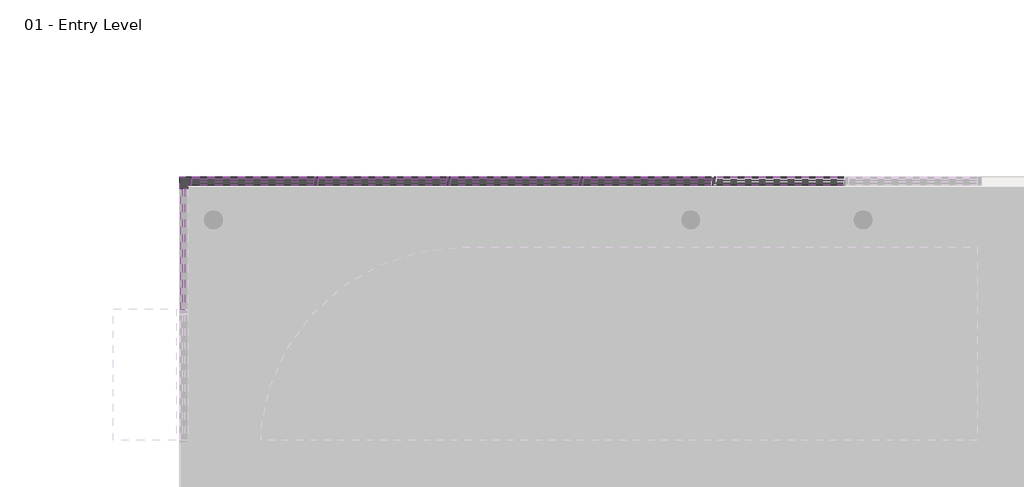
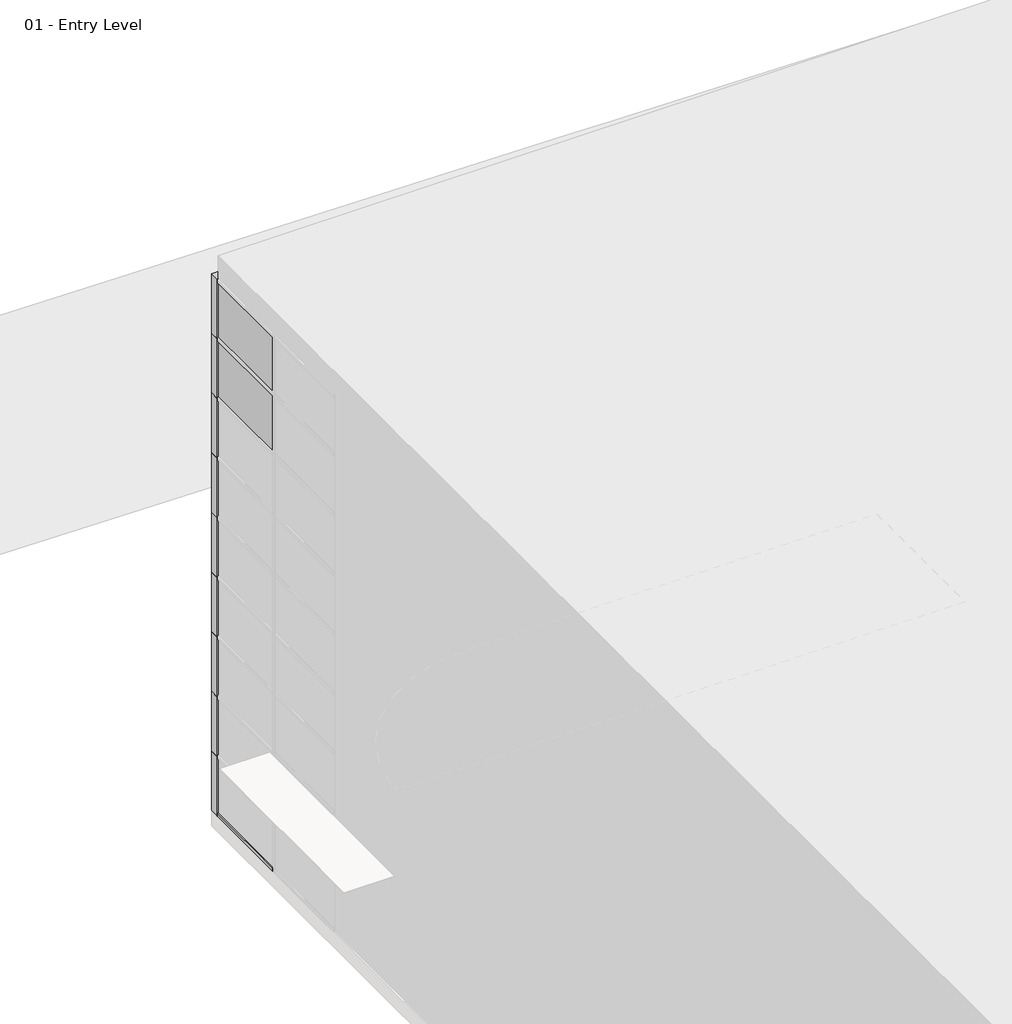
# One storey, part 28 of 34: 90 members, 38 plates.
"""IFC4 building model written with IfcOpenShell, lengths in millimetres."""

from ifc_helpers import new_model, si_unit, origin, place, context, project, spatial, transform, mapped, element, save
from components import member_6230916f, member_2b49869a, member_391b434c, member_9e90ae50, member_9822c4e5, member_b50b2218, member_bdc0ab2a, system_panel_glazed_1b9d6098, system_panel_glazed_70da479d, system_panel_glazed_01db37db, system_panel_glazed_0a464ab8, system_panel_glazed_acb8865d, system_panel_solid_b376696c, system_panel_solid_77e8b053, system_panel_solid_9da24cec, system_panel_solid_7d77b356, system_panel_solid_9c486990

model = new_model("IFC4")

# Units and contexts
model_context = context("Model", 3, world=origin())
ifc_project = project(units=[si_unit("LENGTHUNIT", "METRE", prefix="MILLI")], contexts=[model_context])

# Site, building, storey
site = spatial("IfcSite", under=ifc_project)
building = spatial("IfcBuilding", under=site)
storey = spatial("IfcBuildingStorey", under=building, Name="01 - Entry Level", Elevation=0.0)

# Members
placement = place(None, origin())
member_shape = member_6230916f(model_context)
element("IfcMember", 1, ObjectType="L Corner Mullion : 5\" x 5\" Corner", at=placement, inside=storey, context=model_context, shape_type="MappedRepresentation", body=[
    mapped(member_shape, transform((178.7207476, 53825.7, 10972.8), x_axis=(0.0, 1.0, 0.0), y_axis=(-1.0, 0.0, 0.0), z_axis=(0.0, 0.0, 1.0))),
])
element("IfcMember", 2, ObjectType="L Corner Mullion : 5\" x 5\" Corner", at=placement, inside=storey, context=model_context, shape_type="MappedRepresentation", body=[
    mapped(member_shape, transform((178.7207476, 53825.7, 1219.2), x_axis=(0.0, 1.0, 0.0), y_axis=(-1.0, 0.0, 0.0), z_axis=(0.0, 0.0, 1.0))),
])
element("IfcMember", 3, ObjectType="L Corner Mullion : 5\" x 5\" Corner", at=placement, inside=storey, context=model_context, shape_type="MappedRepresentation", body=[
    mapped(member_shape, transform((178.7207476, 53825.7, 8534.4), x_axis=(0.0, 1.0, 0.0), y_axis=(-1.0, 0.0, 0.0), z_axis=(0.0, 0.0, 1.0))),
])
element("IfcMember", 4, ObjectType="L Corner Mullion : 5\" x 5\" Corner", at=placement, inside=storey, context=model_context, shape_type="MappedRepresentation", body=[
    mapped(member_shape, transform((178.7207476, 53825.7, 7315.2), x_axis=(0.0, 1.0, 0.0), y_axis=(-1.0, 0.0, 0.0), z_axis=(0.0, 0.0, 1.0))),
])
element("IfcMember", 5, ObjectType="L Corner Mullion : 5\" x 5\" Corner", at=placement, inside=storey, context=model_context, shape_type="MappedRepresentation", body=[
    mapped(member_shape, transform((178.7207476, 53825.7, 9753.6), x_axis=(0.0, 1.0, 0.0), y_axis=(-1.0, 0.0, 0.0), z_axis=(0.0, 0.0, 1.0))),
])
element("IfcMember", 6, ObjectType="L Corner Mullion : 5\" x 5\" Corner", at=placement, inside=storey, context=model_context, shape_type="MappedRepresentation", body=[
    mapped(member_shape, transform((178.7207476, 53825.7, 6096.0), x_axis=(0.0, 1.0, 0.0), y_axis=(-1.0, 0.0, 0.0), z_axis=(0.0, 0.0, 1.0))),
])
element("IfcMember", 7, ObjectType="L Corner Mullion : 5\" x 5\" Corner", at=placement, inside=storey, context=model_context, shape_type="MappedRepresentation", body=[
    mapped(member_shape, transform((178.7207476, 53825.7, 2438.4), x_axis=(0.0, 1.0, 0.0), y_axis=(-1.0, 0.0, 0.0), z_axis=(0.0, 0.0, 1.0))),
])
element("IfcMember", 8, ObjectType="L Corner Mullion : 5\" x 5\" Corner", at=placement, inside=storey, context=model_context, shape_type="MappedRepresentation", body=[
    mapped(member_shape, transform((178.7207476, 53825.7, 3657.6), x_axis=(0.0, 1.0, 0.0), y_axis=(-1.0, 0.0, 0.0), z_axis=(0.0, 0.0, 1.0))),
])
element("IfcMember", 9, ObjectType="L Corner Mullion : 5\" x 5\" Corner", at=placement, inside=storey, context=model_context, shape_type="MappedRepresentation", body=[
    mapped(member_shape, transform((178.7207476, 53825.7, 4876.8), x_axis=(0.0, 1.0, 0.0), y_axis=(-1.0, 0.0, 0.0), z_axis=(0.0, 0.0, 1.0))),
])
member_2_shape = member_2b49869a(model_context)
element("IfcMember", 10, ObjectType="Rectangular Mullion : 2.5\" x 5\" rectangular", at=placement, inside=storey, context=model_context, shape_type="MappedRepresentation", body=[
    mapped(member_2_shape, transform((6274.7207476, 53825.7, 9753.6), x_axis=(-1.0, 0.0, 0.0), y_axis=(0.0, 1.0, 0.0), z_axis=(0.0, 0.0, -1.0))),
])
element("IfcMember", 11, ObjectType="Rectangular Mullion : 2.5\" x 5\" rectangular", at=placement, inside=storey, context=model_context, shape_type="MappedRepresentation", body=[
    mapped(member_2_shape, transform((4242.7207476, 53825.7, 9753.6), x_axis=(-1.0, 0.0, 0.0), y_axis=(0.0, 1.0, 0.0), z_axis=(0.0, 0.0, -1.0))),
])
element("IfcMember", 12, ObjectType="Rectangular Mullion : 2.5\" x 5\" rectangular", at=placement, inside=storey, context=model_context, shape_type="MappedRepresentation", body=[
    mapped(member_2_shape, transform((2210.7207476, 53825.7, 9753.6), x_axis=(-1.0, 0.0, 0.0), y_axis=(0.0, 1.0, 0.0), z_axis=(0.0, 0.0, -1.0))),
])
member_3_shape = member_391b434c(model_context)
element("IfcMember", 13, ObjectType="Rectangular Mullion : 2.5\" x 5\" rectangular", at=placement, inside=storey, context=model_context, shape_type="MappedRepresentation", body=[
    mapped(member_3_shape, transform((8338.4707476, 53825.7, 10972.8), x_axis=(0.0, 0.0, 1.0), y_axis=(0.0, 1.0, 0.0), z_axis=(-1.0, 0.0, 0.0))),
])
element("IfcMember", 14, ObjectType="Rectangular Mullion : 2.5\" x 5\" rectangular", at=placement, inside=storey, context=model_context, shape_type="MappedRepresentation", body=[
    mapped(member_3_shape, transform((6306.4707476, 53825.7, 10972.8), x_axis=(0.0, 0.0, 1.0), y_axis=(0.0, 1.0, 0.0), z_axis=(-1.0, 0.0, 0.0))),
])
element("IfcMember", 15, ObjectType="Rectangular Mullion : 2.5\" x 5\" rectangular", at=placement, inside=storey, context=model_context, shape_type="MappedRepresentation", body=[
    mapped(member_3_shape, transform((4274.4707476, 53825.7, 10972.8), x_axis=(0.0, 0.0, 1.0), y_axis=(0.0, 1.0, 0.0), z_axis=(-1.0, 0.0, 0.0))),
])
element("IfcMember", 16, ObjectType="Rectangular Mullion : 2.5\" x 5\" rectangular", at=placement, inside=storey, context=model_context, shape_type="MappedRepresentation", body=[
    mapped(member_3_shape, transform((2242.4707476, 53825.7, 10972.8), x_axis=(0.0, 0.0, 1.0), y_axis=(0.0, 1.0, 0.0), z_axis=(-1.0, 0.0, 0.0))),
])
element("IfcMember", 17, ObjectType="Rectangular Mullion : 2.5\" x 5\" rectangular", at=placement, inside=storey, context=model_context, shape_type="MappedRepresentation", body=[
    mapped(member_3_shape, transform((8274.9707476, 53825.7, 0.0), x_axis=(0.0, 0.0, -1.0), y_axis=(0.0, 1.0, 0.0), z_axis=(1.0, 0.0, 0.0))),
])
element("IfcMember", 18, ObjectType="Rectangular Mullion : 2.5\" x 5\" rectangular", at=placement, inside=storey, context=model_context, shape_type="MappedRepresentation", body=[
    mapped(member_3_shape, transform((6242.9707476, 53825.7, 0.0), x_axis=(0.0, 0.0, -1.0), y_axis=(0.0, 1.0, 0.0), z_axis=(1.0, 0.0, 0.0))),
])
element("IfcMember", 19, ObjectType="Rectangular Mullion : 2.5\" x 5\" rectangular", at=placement, inside=storey, context=model_context, shape_type="MappedRepresentation", body=[
    mapped(member_3_shape, transform((4210.9707476, 53825.7, 0.0), x_axis=(0.0, 0.0, -1.0), y_axis=(0.0, 1.0, 0.0), z_axis=(1.0, 0.0, 0.0))),
])
member_4_shape = member_9e90ae50(model_context)
element("IfcMember", 20, ObjectType="Rectangular Mullion : 2.5\" x 5\" rectangular", at=placement, inside=storey, context=model_context, shape_type="MappedRepresentation", body=[
    mapped(member_4_shape, transform((8338.4707476, 53825.7, 1219.2), x_axis=(0.0, 0.0, 1.0), y_axis=(0.0, 1.0, 0.0), z_axis=(-1.0, 0.0, 0.0))),
])
element("IfcMember", 21, ObjectType="Rectangular Mullion : 2.5\" x 5\" rectangular", at=placement, inside=storey, context=model_context, shape_type="MappedRepresentation", body=[
    mapped(member_4_shape, transform((6306.4707476, 53825.7, 1219.2), x_axis=(0.0, 0.0, 1.0), y_axis=(0.0, 1.0, 0.0), z_axis=(-1.0, 0.0, 0.0))),
])
element("IfcMember", 22, ObjectType="Rectangular Mullion : 2.5\" x 5\" rectangular", at=placement, inside=storey, context=model_context, shape_type="MappedRepresentation", body=[
    mapped(member_4_shape, transform((4274.4707476, 53825.7, 1219.2), x_axis=(0.0, 0.0, 1.0), y_axis=(0.0, 1.0, 0.0), z_axis=(-1.0, 0.0, 0.0))),
])
element("IfcMember", 23, ObjectType="Rectangular Mullion : 2.5\" x 5\" rectangular", at=placement, inside=storey, context=model_context, shape_type="MappedRepresentation", body=[
    mapped(member_4_shape, transform((2242.4707476, 53825.7, 1219.2), x_axis=(0.0, 0.0, 1.0), y_axis=(0.0, 1.0, 0.0), z_axis=(-1.0, 0.0, 0.0))),
])
element("IfcMember", 24, ObjectType="Rectangular Mullion : 2.5\" x 5\" rectangular", at=placement, inside=storey, context=model_context, shape_type="MappedRepresentation", body=[
    mapped(member_4_shape, transform((8338.4707476, 53825.7, 2438.4), x_axis=(0.0, 0.0, 1.0), y_axis=(0.0, 1.0, 0.0), z_axis=(-1.0, 0.0, 0.0))),
])
element("IfcMember", 25, ObjectType="Rectangular Mullion : 2.5\" x 5\" rectangular", at=placement, inside=storey, context=model_context, shape_type="MappedRepresentation", body=[
    mapped(member_4_shape, transform((6306.4707476, 53825.7, 2438.4), x_axis=(0.0, 0.0, 1.0), y_axis=(0.0, 1.0, 0.0), z_axis=(-1.0, 0.0, 0.0))),
])
element("IfcMember", 26, ObjectType="Rectangular Mullion : 2.5\" x 5\" rectangular", at=placement, inside=storey, context=model_context, shape_type="MappedRepresentation", body=[
    mapped(member_4_shape, transform((4274.4707476, 53825.7, 2438.4), x_axis=(0.0, 0.0, 1.0), y_axis=(0.0, 1.0, 0.0), z_axis=(-1.0, 0.0, 0.0))),
])
element("IfcMember", 27, ObjectType="Rectangular Mullion : 2.5\" x 5\" rectangular", at=placement, inside=storey, context=model_context, shape_type="MappedRepresentation", body=[
    mapped(member_4_shape, transform((2242.4707476, 53825.7, 2438.4), x_axis=(0.0, 0.0, 1.0), y_axis=(0.0, 1.0, 0.0), z_axis=(-1.0, 0.0, 0.0))),
])
element("IfcMember", 28, ObjectType="Rectangular Mullion : 2.5\" x 5\" rectangular", at=placement, inside=storey, context=model_context, shape_type="MappedRepresentation", body=[
    mapped(member_4_shape, transform((8338.4707476, 53825.7, 3657.6), x_axis=(0.0, 0.0, 1.0), y_axis=(0.0, 1.0, 0.0), z_axis=(-1.0, 0.0, 0.0))),
])
element("IfcMember", 29, ObjectType="Rectangular Mullion : 2.5\" x 5\" rectangular", at=placement, inside=storey, context=model_context, shape_type="MappedRepresentation", body=[
    mapped(member_4_shape, transform((6306.4707476, 53825.7, 3657.6), x_axis=(0.0, 0.0, 1.0), y_axis=(0.0, 1.0, 0.0), z_axis=(-1.0, 0.0, 0.0))),
])
element("IfcMember", 30, ObjectType="Rectangular Mullion : 2.5\" x 5\" rectangular", at=placement, inside=storey, context=model_context, shape_type="MappedRepresentation", body=[
    mapped(member_4_shape, transform((4274.4707476, 53825.7, 3657.6), x_axis=(0.0, 0.0, 1.0), y_axis=(0.0, 1.0, 0.0), z_axis=(-1.0, 0.0, 0.0))),
])
element("IfcMember", 31, ObjectType="Rectangular Mullion : 2.5\" x 5\" rectangular", at=placement, inside=storey, context=model_context, shape_type="MappedRepresentation", body=[
    mapped(member_4_shape, transform((2242.4707476, 53825.7, 3657.6), x_axis=(0.0, 0.0, 1.0), y_axis=(0.0, 1.0, 0.0), z_axis=(-1.0, 0.0, 0.0))),
])
element("IfcMember", 32, ObjectType="Rectangular Mullion : 2.5\" x 5\" rectangular", at=placement, inside=storey, context=model_context, shape_type="MappedRepresentation", body=[
    mapped(member_4_shape, transform((8338.4707476, 53825.7, 4876.8), x_axis=(0.0, 0.0, 1.0), y_axis=(0.0, 1.0, 0.0), z_axis=(-1.0, 0.0, 0.0))),
])
element("IfcMember", 33, ObjectType="Rectangular Mullion : 2.5\" x 5\" rectangular", at=placement, inside=storey, context=model_context, shape_type="MappedRepresentation", body=[
    mapped(member_4_shape, transform((6306.4707476, 53825.7, 4876.8), x_axis=(0.0, 0.0, 1.0), y_axis=(0.0, 1.0, 0.0), z_axis=(-1.0, 0.0, 0.0))),
])
element("IfcMember", 34, ObjectType="Rectangular Mullion : 2.5\" x 5\" rectangular", at=placement, inside=storey, context=model_context, shape_type="MappedRepresentation", body=[
    mapped(member_4_shape, transform((4274.4707476, 53825.7, 4876.8), x_axis=(0.0, 0.0, 1.0), y_axis=(0.0, 1.0, 0.0), z_axis=(-1.0, 0.0, 0.0))),
])
element("IfcMember", 35, ObjectType="Rectangular Mullion : 2.5\" x 5\" rectangular", at=placement, inside=storey, context=model_context, shape_type="MappedRepresentation", body=[
    mapped(member_4_shape, transform((2242.4707476, 53825.7, 4876.8), x_axis=(0.0, 0.0, 1.0), y_axis=(0.0, 1.0, 0.0), z_axis=(-1.0, 0.0, 0.0))),
])
element("IfcMember", 36, ObjectType="Rectangular Mullion : 2.5\" x 5\" rectangular", at=placement, inside=storey, context=model_context, shape_type="MappedRepresentation", body=[
    mapped(member_4_shape, transform((8338.4707476, 53825.7, 6096.0), x_axis=(0.0, 0.0, 1.0), y_axis=(0.0, 1.0, 0.0), z_axis=(-1.0, 0.0, 0.0))),
])
element("IfcMember", 37, ObjectType="Rectangular Mullion : 2.5\" x 5\" rectangular", at=placement, inside=storey, context=model_context, shape_type="MappedRepresentation", body=[
    mapped(member_4_shape, transform((6306.4707476, 53825.7, 6096.0), x_axis=(0.0, 0.0, 1.0), y_axis=(0.0, 1.0, 0.0), z_axis=(-1.0, 0.0, 0.0))),
])
element("IfcMember", 38, ObjectType="Rectangular Mullion : 2.5\" x 5\" rectangular", at=placement, inside=storey, context=model_context, shape_type="MappedRepresentation", body=[
    mapped(member_4_shape, transform((4274.4707476, 53825.7, 6096.0), x_axis=(0.0, 0.0, 1.0), y_axis=(0.0, 1.0, 0.0), z_axis=(-1.0, 0.0, 0.0))),
])
element("IfcMember", 39, ObjectType="Rectangular Mullion : 2.5\" x 5\" rectangular", at=placement, inside=storey, context=model_context, shape_type="MappedRepresentation", body=[
    mapped(member_4_shape, transform((2242.4707476, 53825.7, 6096.0), x_axis=(0.0, 0.0, 1.0), y_axis=(0.0, 1.0, 0.0), z_axis=(-1.0, 0.0, 0.0))),
])
element("IfcMember", 40, ObjectType="Rectangular Mullion : 2.5\" x 5\" rectangular", at=placement, inside=storey, context=model_context, shape_type="MappedRepresentation", body=[
    mapped(member_4_shape, transform((8338.4707476, 53825.7, 7315.2), x_axis=(0.0, 0.0, 1.0), y_axis=(0.0, 1.0, 0.0), z_axis=(-1.0, 0.0, 0.0))),
])
element("IfcMember", 41, ObjectType="Rectangular Mullion : 2.5\" x 5\" rectangular", at=placement, inside=storey, context=model_context, shape_type="MappedRepresentation", body=[
    mapped(member_4_shape, transform((6306.4707476, 53825.7, 7315.2), x_axis=(0.0, 0.0, 1.0), y_axis=(0.0, 1.0, 0.0), z_axis=(-1.0, 0.0, 0.0))),
])
element("IfcMember", 42, ObjectType="Rectangular Mullion : 2.5\" x 5\" rectangular", at=placement, inside=storey, context=model_context, shape_type="MappedRepresentation", body=[
    mapped(member_4_shape, transform((4274.4707476, 53825.7, 7315.2), x_axis=(0.0, 0.0, 1.0), y_axis=(0.0, 1.0, 0.0), z_axis=(-1.0, 0.0, 0.0))),
])
element("IfcMember", 43, ObjectType="Rectangular Mullion : 2.5\" x 5\" rectangular", at=placement, inside=storey, context=model_context, shape_type="MappedRepresentation", body=[
    mapped(member_4_shape, transform((2242.4707476, 53825.7, 7315.2), x_axis=(0.0, 0.0, 1.0), y_axis=(0.0, 1.0, 0.0), z_axis=(-1.0, 0.0, 0.0))),
])
element("IfcMember", 44, ObjectType="Rectangular Mullion : 2.5\" x 5\" rectangular", at=placement, inside=storey, context=model_context, shape_type="MappedRepresentation", body=[
    mapped(member_4_shape, transform((8338.4707476, 53825.7, 8534.4), x_axis=(0.0, 0.0, 1.0), y_axis=(0.0, 1.0, 0.0), z_axis=(-1.0, 0.0, 0.0))),
])
element("IfcMember", 45, ObjectType="Rectangular Mullion : 2.5\" x 5\" rectangular", at=placement, inside=storey, context=model_context, shape_type="MappedRepresentation", body=[
    mapped(member_4_shape, transform((6306.4707476, 53825.7, 8534.4), x_axis=(0.0, 0.0, 1.0), y_axis=(0.0, 1.0, 0.0), z_axis=(-1.0, 0.0, 0.0))),
])
element("IfcMember", 46, ObjectType="Rectangular Mullion : 2.5\" x 5\" rectangular", at=placement, inside=storey, context=model_context, shape_type="MappedRepresentation", body=[
    mapped(member_4_shape, transform((4274.4707476, 53825.7, 8534.4), x_axis=(0.0, 0.0, 1.0), y_axis=(0.0, 1.0, 0.0), z_axis=(-1.0, 0.0, 0.0))),
])
element("IfcMember", 47, ObjectType="Rectangular Mullion : 2.5\" x 5\" rectangular", at=placement, inside=storey, context=model_context, shape_type="MappedRepresentation", body=[
    mapped(member_4_shape, transform((2242.4707476, 53825.7, 8534.4), x_axis=(0.0, 0.0, 1.0), y_axis=(0.0, 1.0, 0.0), z_axis=(-1.0, 0.0, 0.0))),
])
element("IfcMember", 48, ObjectType="Rectangular Mullion : 2.5\" x 5\" rectangular", at=placement, inside=storey, context=model_context, shape_type="MappedRepresentation", body=[
    mapped(member_4_shape, transform((8338.4707476, 53825.7, 9753.6), x_axis=(0.0, 0.0, 1.0), y_axis=(0.0, 1.0, 0.0), z_axis=(-1.0, 0.0, 0.0))),
])
element("IfcMember", 49, ObjectType="Rectangular Mullion : 2.5\" x 5\" rectangular", at=placement, inside=storey, context=model_context, shape_type="MappedRepresentation", body=[
    mapped(member_4_shape, transform((6306.4707476, 53825.7, 9753.6), x_axis=(0.0, 0.0, 1.0), y_axis=(0.0, 1.0, 0.0), z_axis=(-1.0, 0.0, 0.0))),
])
element("IfcMember", 50, ObjectType="Rectangular Mullion : 2.5\" x 5\" rectangular", at=placement, inside=storey, context=model_context, shape_type="MappedRepresentation", body=[
    mapped(member_4_shape, transform((4274.4707476, 53825.7, 9753.6), x_axis=(0.0, 0.0, 1.0), y_axis=(0.0, 1.0, 0.0), z_axis=(-1.0, 0.0, 0.0))),
])
element("IfcMember", 51, ObjectType="Rectangular Mullion : 2.5\" x 5\" rectangular", at=placement, inside=storey, context=model_context, shape_type="MappedRepresentation", body=[
    mapped(member_4_shape, transform((2242.4707476, 53825.7, 9753.6), x_axis=(0.0, 0.0, 1.0), y_axis=(0.0, 1.0, 0.0), z_axis=(-1.0, 0.0, 0.0))),
])
element("IfcMember", 52, ObjectType="Rectangular Mullion : 2.5\" x 5\" rectangular", at=placement, inside=storey, context=model_context, shape_type="MappedRepresentation", body=[
    mapped(member_2_shape, transform((8306.7207476, 53825.7, 0.0), x_axis=(-1.0, 0.0, 0.0), y_axis=(0.0, 1.0, 0.0), z_axis=(0.0, 0.0, -1.0))),
])
element("IfcMember", 53, ObjectType="Rectangular Mullion : 2.5\" x 5\" rectangular", at=placement, inside=storey, context=model_context, shape_type="MappedRepresentation", body=[
    mapped(member_2_shape, transform((6274.7207476, 53825.7, 0.0), x_axis=(-1.0, 0.0, 0.0), y_axis=(0.0, 1.0, 0.0), z_axis=(0.0, 0.0, -1.0))),
])
element("IfcMember", 54, ObjectType="Rectangular Mullion : 2.5\" x 5\" rectangular", at=placement, inside=storey, context=model_context, shape_type="MappedRepresentation", body=[
    mapped(member_2_shape, transform((4242.7207476, 53825.7, 0.0), x_axis=(-1.0, 0.0, 0.0), y_axis=(0.0, 1.0, 0.0), z_axis=(0.0, 0.0, -1.0))),
])
element("IfcMember", 55, ObjectType="Rectangular Mullion : 2.5\" x 5\" rectangular", at=placement, inside=storey, context=model_context, shape_type="MappedRepresentation", body=[
    mapped(member_2_shape, transform((2210.7207476, 53825.7, 0.0), x_axis=(-1.0, 0.0, 0.0), y_axis=(0.0, 1.0, 0.0), z_axis=(0.0, 0.0, -1.0))),
])
element("IfcMember", 56, ObjectType="Rectangular Mullion : 2.5\" x 5\" rectangular", at=placement, inside=storey, context=model_context, shape_type="MappedRepresentation", body=[
    mapped(member_2_shape, transform((8306.7207476, 53825.7, 1219.2), x_axis=(-1.0, 0.0, 0.0), y_axis=(0.0, 1.0, 0.0), z_axis=(0.0, 0.0, -1.0))),
])
element("IfcMember", 57, ObjectType="Rectangular Mullion : 2.5\" x 5\" rectangular", at=placement, inside=storey, context=model_context, shape_type="MappedRepresentation", body=[
    mapped(member_2_shape, transform((6274.7207476, 53825.7, 1219.2), x_axis=(-1.0, 0.0, 0.0), y_axis=(0.0, 1.0, 0.0), z_axis=(0.0, 0.0, -1.0))),
])
element("IfcMember", 58, ObjectType="Rectangular Mullion : 2.5\" x 5\" rectangular", at=placement, inside=storey, context=model_context, shape_type="MappedRepresentation", body=[
    mapped(member_2_shape, transform((4242.7207476, 53825.7, 1219.2), x_axis=(-1.0, 0.0, 0.0), y_axis=(0.0, 1.0, 0.0), z_axis=(0.0, 0.0, -1.0))),
])
element("IfcMember", 59, ObjectType="Rectangular Mullion : 2.5\" x 5\" rectangular", at=placement, inside=storey, context=model_context, shape_type="MappedRepresentation", body=[
    mapped(member_2_shape, transform((8306.7207476, 53825.7, 2438.4), x_axis=(-1.0, 0.0, 0.0), y_axis=(0.0, 1.0, 0.0), z_axis=(0.0, 0.0, -1.0))),
])
element("IfcMember", 60, ObjectType="Rectangular Mullion : 2.5\" x 5\" rectangular", at=placement, inside=storey, context=model_context, shape_type="MappedRepresentation", body=[
    mapped(member_2_shape, transform((6274.7207476, 53825.7, 2438.4), x_axis=(-1.0, 0.0, 0.0), y_axis=(0.0, 1.0, 0.0), z_axis=(0.0, 0.0, -1.0))),
])
element("IfcMember", 61, ObjectType="Rectangular Mullion : 2.5\" x 5\" rectangular", at=placement, inside=storey, context=model_context, shape_type="MappedRepresentation", body=[
    mapped(member_2_shape, transform((4242.7207476, 53825.7, 2438.4), x_axis=(-1.0, 0.0, 0.0), y_axis=(0.0, 1.0, 0.0), z_axis=(0.0, 0.0, -1.0))),
])
element("IfcMember", 62, ObjectType="Rectangular Mullion : 2.5\" x 5\" rectangular", at=placement, inside=storey, context=model_context, shape_type="MappedRepresentation", body=[
    mapped(member_2_shape, transform((8306.7207476, 53825.7, 3657.6), x_axis=(-1.0, 0.0, 0.0), y_axis=(0.0, 1.0, 0.0), z_axis=(0.0, 0.0, -1.0))),
])
element("IfcMember", 63, ObjectType="Rectangular Mullion : 2.5\" x 5\" rectangular", at=placement, inside=storey, context=model_context, shape_type="MappedRepresentation", body=[
    mapped(member_2_shape, transform((6274.7207476, 53825.7, 3657.6), x_axis=(-1.0, 0.0, 0.0), y_axis=(0.0, 1.0, 0.0), z_axis=(0.0, 0.0, -1.0))),
])
element("IfcMember", 64, ObjectType="Rectangular Mullion : 2.5\" x 5\" rectangular", at=placement, inside=storey, context=model_context, shape_type="MappedRepresentation", body=[
    mapped(member_2_shape, transform((4242.7207476, 53825.7, 3657.6), x_axis=(-1.0, 0.0, 0.0), y_axis=(0.0, 1.0, 0.0), z_axis=(0.0, 0.0, -1.0))),
])
element("IfcMember", 65, ObjectType="Rectangular Mullion : 2.5\" x 5\" rectangular", at=placement, inside=storey, context=model_context, shape_type="MappedRepresentation", body=[
    mapped(member_2_shape, transform((6274.7207476, 53825.7, 4876.8), x_axis=(-1.0, 0.0, 0.0), y_axis=(0.0, 1.0, 0.0), z_axis=(0.0, 0.0, -1.0))),
])
element("IfcMember", 66, ObjectType="Rectangular Mullion : 2.5\" x 5\" rectangular", at=placement, inside=storey, context=model_context, shape_type="MappedRepresentation", body=[
    mapped(member_2_shape, transform((4242.7207476, 53825.7, 4876.8), x_axis=(-1.0, 0.0, 0.0), y_axis=(0.0, 1.0, 0.0), z_axis=(0.0, 0.0, -1.0))),
])
element("IfcMember", 67, ObjectType="Rectangular Mullion : 2.5\" x 5\" rectangular", at=placement, inside=storey, context=model_context, shape_type="MappedRepresentation", body=[
    mapped(member_2_shape, transform((6274.7207476, 53825.7, 6096.0), x_axis=(-1.0, 0.0, 0.0), y_axis=(0.0, 1.0, 0.0), z_axis=(0.0, 0.0, -1.0))),
])
element("IfcMember", 68, ObjectType="Rectangular Mullion : 2.5\" x 5\" rectangular", at=placement, inside=storey, context=model_context, shape_type="MappedRepresentation", body=[
    mapped(member_2_shape, transform((4242.7207476, 53825.7, 6096.0), x_axis=(-1.0, 0.0, 0.0), y_axis=(0.0, 1.0, 0.0), z_axis=(0.0, 0.0, -1.0))),
])
element("IfcMember", 69, ObjectType="Rectangular Mullion : 2.5\" x 5\" rectangular", at=placement, inside=storey, context=model_context, shape_type="MappedRepresentation", body=[
    mapped(member_2_shape, transform((6274.7207476, 53825.7, 7315.2), x_axis=(-1.0, 0.0, 0.0), y_axis=(0.0, 1.0, 0.0), z_axis=(0.0, 0.0, -1.0))),
])
element("IfcMember", 70, ObjectType="Rectangular Mullion : 2.5\" x 5\" rectangular", at=placement, inside=storey, context=model_context, shape_type="MappedRepresentation", body=[
    mapped(member_2_shape, transform((4242.7207476, 53825.7, 7315.2), x_axis=(-1.0, 0.0, 0.0), y_axis=(0.0, 1.0, 0.0), z_axis=(0.0, 0.0, -1.0))),
])
element("IfcMember", 71, ObjectType="Rectangular Mullion : 2.5\" x 5\" rectangular", at=placement, inside=storey, context=model_context, shape_type="MappedRepresentation", body=[
    mapped(member_2_shape, transform((6274.7207476, 53825.7, 8534.4), x_axis=(-1.0, 0.0, 0.0), y_axis=(0.0, 1.0, 0.0), z_axis=(0.0, 0.0, -1.0))),
])
element("IfcMember", 72, ObjectType="Rectangular Mullion : 2.5\" x 5\" rectangular", at=placement, inside=storey, context=model_context, shape_type="MappedRepresentation", body=[
    mapped(member_2_shape, transform((4242.7207476, 53825.7, 8534.4), x_axis=(-1.0, 0.0, 0.0), y_axis=(0.0, 1.0, 0.0), z_axis=(0.0, 0.0, -1.0))),
])
element("IfcMember", 73, ObjectType="Rectangular Mullion : 2.5\" x 5\" rectangular", at=placement, inside=storey, context=model_context, shape_type="MappedRepresentation", body=[
    mapped(member_2_shape, transform((2210.7207476, 53825.7, 1219.2), x_axis=(-1.0, 0.0, 0.0), y_axis=(0.0, 1.0, 0.0), z_axis=(0.0, 0.0, -1.0))),
])
element("IfcMember", 74, ObjectType="Rectangular Mullion : 2.5\" x 5\" rectangular", at=placement, inside=storey, context=model_context, shape_type="MappedRepresentation", body=[
    mapped(member_2_shape, transform((2210.7207476, 53825.7, 2438.4), x_axis=(-1.0, 0.0, 0.0), y_axis=(0.0, 1.0, 0.0), z_axis=(0.0, 0.0, -1.0))),
])
element("IfcMember", 75, ObjectType="Rectangular Mullion : 2.5\" x 5\" rectangular", at=placement, inside=storey, context=model_context, shape_type="MappedRepresentation", body=[
    mapped(member_2_shape, transform((2210.7207476, 53825.7, 3657.6), x_axis=(-1.0, 0.0, 0.0), y_axis=(0.0, 1.0, 0.0), z_axis=(0.0, 0.0, -1.0))),
])
element("IfcMember", 76, ObjectType="Rectangular Mullion : 2.5\" x 5\" rectangular", at=placement, inside=storey, context=model_context, shape_type="MappedRepresentation", body=[
    mapped(member_2_shape, transform((2210.7207476, 53825.7, 4876.8), x_axis=(-1.0, 0.0, 0.0), y_axis=(0.0, 1.0, 0.0), z_axis=(0.0, 0.0, -1.0))),
])
element("IfcMember", 77, ObjectType="Rectangular Mullion : 2.5\" x 5\" rectangular", at=placement, inside=storey, context=model_context, shape_type="MappedRepresentation", body=[
    mapped(member_2_shape, transform((2210.7207476, 53825.7, 6096.0), x_axis=(-1.0, 0.0, 0.0), y_axis=(0.0, 1.0, 0.0), z_axis=(0.0, 0.0, -1.0))),
])
element("IfcMember", 78, ObjectType="Rectangular Mullion : 2.5\" x 5\" rectangular", at=placement, inside=storey, context=model_context, shape_type="MappedRepresentation", body=[
    mapped(member_2_shape, transform((2210.7207476, 53825.7, 7315.2), x_axis=(-1.0, 0.0, 0.0), y_axis=(0.0, 1.0, 0.0), z_axis=(0.0, 0.0, -1.0))),
])
element("IfcMember", 79, ObjectType="Rectangular Mullion : 2.5\" x 5\" rectangular", at=placement, inside=storey, context=model_context, shape_type="MappedRepresentation", body=[
    mapped(member_2_shape, transform((2210.7207476, 53825.7, 8534.4), x_axis=(-1.0, 0.0, 0.0), y_axis=(0.0, 1.0, 0.0), z_axis=(0.0, 0.0, -1.0))),
])
member_5_shape = member_9822c4e5(model_context)
element("IfcMember", 80, ObjectType="Rectangular Mullion : 2.5\" x 5\" rectangular", at=placement, inside=storey, context=model_context, shape_type="MappedRepresentation", body=[
    mapped(member_5_shape, transform((305.7207476, 53825.7, 10972.8), x_axis=(0.0, 0.0, 1.0), y_axis=(0.0, 1.0, 0.0), z_axis=(-1.0, 0.0, 0.0))),
])
element("IfcMember", 81, ObjectType="Rectangular Mullion : 2.5\" x 5\" rectangular", at=placement, inside=storey, context=model_context, shape_type="MappedRepresentation", body=[
    mapped(member_5_shape, transform((2178.9707476, 53825.7, 0.0), x_axis=(0.0, 0.0, -1.0), y_axis=(0.0, 1.0, 0.0), z_axis=(1.0, 0.0, 0.0))),
])
member_6_shape = member_b50b2218(model_context)
element("IfcMember", 82, ObjectType="Rectangular Mullion : 2.5\" x 5\" rectangular", at=placement, inside=storey, context=model_context, shape_type="MappedRepresentation", body=[
    mapped(member_6_shape, transform((305.7207476, 53825.7, 1219.2), x_axis=(0.0, 0.0, 1.0), y_axis=(0.0, 1.0, 0.0), z_axis=(-1.0, 0.0, 0.0))),
])
element("IfcMember", 83, ObjectType="Rectangular Mullion : 2.5\" x 5\" rectangular", at=placement, inside=storey, context=model_context, shape_type="MappedRepresentation", body=[
    mapped(member_6_shape, transform((305.7207476, 53825.7, 2438.4), x_axis=(0.0, 0.0, 1.0), y_axis=(0.0, 1.0, 0.0), z_axis=(-1.0, 0.0, 0.0))),
])
element("IfcMember", 84, ObjectType="Rectangular Mullion : 2.5\" x 5\" rectangular", at=placement, inside=storey, context=model_context, shape_type="MappedRepresentation", body=[
    mapped(member_6_shape, transform((305.7207476, 53825.7, 3657.6), x_axis=(0.0, 0.0, 1.0), y_axis=(0.0, 1.0, 0.0), z_axis=(-1.0, 0.0, 0.0))),
])
element("IfcMember", 85, ObjectType="Rectangular Mullion : 2.5\" x 5\" rectangular", at=placement, inside=storey, context=model_context, shape_type="MappedRepresentation", body=[
    mapped(member_6_shape, transform((305.7207476, 53825.7, 4876.8), x_axis=(0.0, 0.0, 1.0), y_axis=(0.0, 1.0, 0.0), z_axis=(-1.0, 0.0, 0.0))),
])
element("IfcMember", 86, ObjectType="Rectangular Mullion : 2.5\" x 5\" rectangular", at=placement, inside=storey, context=model_context, shape_type="MappedRepresentation", body=[
    mapped(member_6_shape, transform((305.7207476, 53825.7, 6096.0), x_axis=(0.0, 0.0, 1.0), y_axis=(0.0, 1.0, 0.0), z_axis=(-1.0, 0.0, 0.0))),
])
element("IfcMember", 87, ObjectType="Rectangular Mullion : 2.5\" x 5\" rectangular", at=placement, inside=storey, context=model_context, shape_type="MappedRepresentation", body=[
    mapped(member_6_shape, transform((305.7207476, 53825.7, 7315.2), x_axis=(0.0, 0.0, 1.0), y_axis=(0.0, 1.0, 0.0), z_axis=(-1.0, 0.0, 0.0))),
])
element("IfcMember", 88, ObjectType="Rectangular Mullion : 2.5\" x 5\" rectangular", at=placement, inside=storey, context=model_context, shape_type="MappedRepresentation", body=[
    mapped(member_6_shape, transform((305.7207476, 53825.7, 8534.4), x_axis=(0.0, 0.0, 1.0), y_axis=(0.0, 1.0, 0.0), z_axis=(-1.0, 0.0, 0.0))),
])
element("IfcMember", 89, ObjectType="Rectangular Mullion : 2.5\" x 5\" rectangular", at=placement, inside=storey, context=model_context, shape_type="MappedRepresentation", body=[
    mapped(member_6_shape, transform((305.7207476, 53825.7, 9753.6), x_axis=(0.0, 0.0, 1.0), y_axis=(0.0, 1.0, 0.0), z_axis=(-1.0, 0.0, 0.0))),
])
member_7_shape = member_bdc0ab2a(model_context)
element("IfcMember", 90, ObjectType="Rectangular Mullion : 2.5\" x 5\" rectangular", at=placement, inside=storey, context=model_context, shape_type="MappedRepresentation", body=[
    mapped(member_7_shape, transform((178.7207476, 53698.7, 0.0), x_axis=(0.0, 0.0, -1.0), y_axis=(-1.0, 0.0, 0.0), z_axis=(0.0, 1.0, 0.0))),
])

# Plates
system_panel_glazed_shape = system_panel_glazed_1b9d6098(model_context)
element("IfcPlate", 91, ObjectType="System Panel : Glazed", at=placement, inside=storey, context=model_context, shape_type="MappedRepresentation", body=[
    mapped(system_panel_glazed_shape, transform((7290.7207476, 53825.7, 63.5), x_axis=(-1.0, 0.0, 0.0), y_axis=(0.0, -1.0, 0.0), z_axis=(0.0, 0.0, 1.0))),
])
element("IfcPlate", 92, ObjectType="System Panel : Glazed", at=placement, inside=storey, context=model_context, shape_type="MappedRepresentation", body=[
    mapped(system_panel_glazed_shape, transform((5258.7207476, 53825.7, 63.5), x_axis=(-1.0, 0.0, 0.0), y_axis=(0.0, -1.0, 0.0), z_axis=(0.0, 0.0, 1.0))),
])
element("IfcPlate", 93, ObjectType="System Panel : Glazed", at=placement, inside=storey, context=model_context, shape_type="MappedRepresentation", body=[
    mapped(system_panel_glazed_shape, transform((3226.7207476, 53825.7, 63.5), x_axis=(-1.0, 0.0, 0.0), y_axis=(0.0, -1.0, 0.0), z_axis=(0.0, 0.0, 1.0))),
])
system_panel_glazed_2_shape = system_panel_glazed_70da479d(model_context)
element("IfcPlate", 94, ObjectType="System Panel : Glazed", at=placement, inside=storey, context=model_context, shape_type="MappedRepresentation", body=[
    mapped(system_panel_glazed_2_shape, transform((7290.7207476, 53825.7, 1250.95), x_axis=(-1.0, 0.0, 0.0), y_axis=(0.0, -1.0, 0.0), z_axis=(0.0, 0.0, 1.0))),
])
element("IfcPlate", 95, ObjectType="System Panel : Glazed", at=placement, inside=storey, context=model_context, shape_type="MappedRepresentation", body=[
    mapped(system_panel_glazed_2_shape, transform((5258.7207476, 53825.7, 1250.95), x_axis=(-1.0, 0.0, 0.0), y_axis=(0.0, -1.0, 0.0), z_axis=(0.0, 0.0, 1.0))),
])
element("IfcPlate", 96, ObjectType="System Panel : Glazed", at=placement, inside=storey, context=model_context, shape_type="MappedRepresentation", body=[
    mapped(system_panel_glazed_2_shape, transform((3226.7207476, 53825.7, 1250.95), x_axis=(-1.0, 0.0, 0.0), y_axis=(0.0, -1.0, 0.0), z_axis=(0.0, 0.0, 1.0))),
])
element("IfcPlate", 97, ObjectType="System Panel : Glazed", at=placement, inside=storey, context=model_context, shape_type="MappedRepresentation", body=[
    mapped(system_panel_glazed_2_shape, transform((7290.7207476, 53825.7, 3689.35), x_axis=(-1.0, 0.0, 0.0), y_axis=(0.0, -1.0, 0.0), z_axis=(0.0, 0.0, 1.0))),
])
element("IfcPlate", 98, ObjectType="System Panel : Glazed", at=placement, inside=storey, context=model_context, shape_type="MappedRepresentation", body=[
    mapped(system_panel_glazed_2_shape, transform((5258.7207476, 53825.7, 3689.35), x_axis=(-1.0, 0.0, 0.0), y_axis=(0.0, -1.0, 0.0), z_axis=(0.0, 0.0, 1.0))),
])
element("IfcPlate", 99, ObjectType="System Panel : Glazed", at=placement, inside=storey, context=model_context, shape_type="MappedRepresentation", body=[
    mapped(system_panel_glazed_2_shape, transform((3226.7207476, 53825.7, 3689.35), x_axis=(-1.0, 0.0, 0.0), y_axis=(0.0, -1.0, 0.0), z_axis=(0.0, 0.0, 1.0))),
])
element("IfcPlate", 100, ObjectType="System Panel : Glazed", at=placement, inside=storey, context=model_context, shape_type="MappedRepresentation", body=[
    mapped(system_panel_glazed_2_shape, transform((7290.7207476, 53825.7, 4908.55), x_axis=(-1.0, 0.0, 0.0), y_axis=(0.0, -1.0, 0.0), z_axis=(0.0, 0.0, 1.0))),
])
element("IfcPlate", 101, ObjectType="System Panel : Glazed", at=placement, inside=storey, context=model_context, shape_type="MappedRepresentation", body=[
    mapped(system_panel_glazed_2_shape, transform((5258.7207476, 53825.7, 4908.55), x_axis=(-1.0, 0.0, 0.0), y_axis=(0.0, -1.0, 0.0), z_axis=(0.0, 0.0, 1.0))),
])
element("IfcPlate", 102, ObjectType="System Panel : Glazed", at=placement, inside=storey, context=model_context, shape_type="MappedRepresentation", body=[
    mapped(system_panel_glazed_2_shape, transform((3226.7207476, 53825.7, 4908.55), x_axis=(-1.0, 0.0, 0.0), y_axis=(0.0, -1.0, 0.0), z_axis=(0.0, 0.0, 1.0))),
])
element("IfcPlate", 103, ObjectType="System Panel : Glazed", at=placement, inside=storey, context=model_context, shape_type="MappedRepresentation", body=[
    mapped(system_panel_glazed_2_shape, transform((7290.7207476, 53825.7, 7346.95), x_axis=(-1.0, 0.0, 0.0), y_axis=(0.0, -1.0, 0.0), z_axis=(0.0, 0.0, 1.0))),
])
element("IfcPlate", 104, ObjectType="System Panel : Glazed", at=placement, inside=storey, context=model_context, shape_type="MappedRepresentation", body=[
    mapped(system_panel_glazed_2_shape, transform((5258.7207476, 53825.7, 7346.95), x_axis=(-1.0, 0.0, 0.0), y_axis=(0.0, -1.0, 0.0), z_axis=(0.0, 0.0, 1.0))),
])
element("IfcPlate", 105, ObjectType="System Panel : Glazed", at=placement, inside=storey, context=model_context, shape_type="MappedRepresentation", body=[
    mapped(system_panel_glazed_2_shape, transform((3226.7207476, 53825.7, 7346.95), x_axis=(-1.0, 0.0, 0.0), y_axis=(0.0, -1.0, 0.0), z_axis=(0.0, 0.0, 1.0))),
])
element("IfcPlate", 106, ObjectType="System Panel : Glazed", at=placement, inside=storey, context=model_context, shape_type="MappedRepresentation", body=[
    mapped(system_panel_glazed_2_shape, transform((7290.7207476, 53825.7, 8566.15), x_axis=(-1.0, 0.0, 0.0), y_axis=(0.0, -1.0, 0.0), z_axis=(0.0, 0.0, 1.0))),
])
element("IfcPlate", 107, ObjectType="System Panel : Glazed", at=placement, inside=storey, context=model_context, shape_type="MappedRepresentation", body=[
    mapped(system_panel_glazed_2_shape, transform((5258.7207476, 53825.7, 8566.15), x_axis=(-1.0, 0.0, 0.0), y_axis=(0.0, -1.0, 0.0), z_axis=(0.0, 0.0, 1.0))),
])
element("IfcPlate", 108, ObjectType="System Panel : Glazed", at=placement, inside=storey, context=model_context, shape_type="MappedRepresentation", body=[
    mapped(system_panel_glazed_2_shape, transform((3226.7207476, 53825.7, 8566.15), x_axis=(-1.0, 0.0, 0.0), y_axis=(0.0, -1.0, 0.0), z_axis=(0.0, 0.0, 1.0))),
])
system_panel_glazed_3_shape = system_panel_glazed_01db37db(model_context)
element("IfcPlate", 109, ObjectType="System Panel : Glazed", at=placement, inside=storey, context=model_context, shape_type="MappedRepresentation", body=[
    mapped(system_panel_glazed_3_shape, transform((1242.3457476, 53825.7, 63.5), x_axis=(-1.0, 0.0, 0.0), y_axis=(0.0, -1.0, 0.0), z_axis=(0.0, 0.0, 1.0))),
])
system_panel_glazed_4_shape = system_panel_glazed_0a464ab8(model_context)
element("IfcPlate", 110, ObjectType="System Panel : Glazed", at=placement, inside=storey, context=model_context, shape_type="MappedRepresentation", body=[
    mapped(system_panel_glazed_4_shape, transform((1242.3457476, 53825.7, 1250.95), x_axis=(-1.0, 0.0, 0.0), y_axis=(0.0, -1.0, 0.0), z_axis=(0.0, 0.0, 1.0))),
])
element("IfcPlate", 111, ObjectType="System Panel : Glazed", at=placement, inside=storey, context=model_context, shape_type="MappedRepresentation", body=[
    mapped(system_panel_glazed_4_shape, transform((1242.3457476, 53825.7, 3689.35), x_axis=(-1.0, 0.0, 0.0), y_axis=(0.0, -1.0, 0.0), z_axis=(0.0, 0.0, 1.0))),
])
element("IfcPlate", 112, ObjectType="System Panel : Glazed", at=placement, inside=storey, context=model_context, shape_type="MappedRepresentation", body=[
    mapped(system_panel_glazed_4_shape, transform((1242.3457476, 53825.7, 4908.55), x_axis=(-1.0, 0.0, 0.0), y_axis=(0.0, -1.0, 0.0), z_axis=(0.0, 0.0, 1.0))),
])
element("IfcPlate", 113, ObjectType="System Panel : Glazed", at=placement, inside=storey, context=model_context, shape_type="MappedRepresentation", body=[
    mapped(system_panel_glazed_4_shape, transform((1242.3457476, 53825.7, 7346.95), x_axis=(-1.0, 0.0, 0.0), y_axis=(0.0, -1.0, 0.0), z_axis=(0.0, 0.0, 1.0))),
])
element("IfcPlate", 114, ObjectType="System Panel : Glazed", at=placement, inside=storey, context=model_context, shape_type="MappedRepresentation", body=[
    mapped(system_panel_glazed_4_shape, transform((1242.3457476, 53825.7, 8566.15), x_axis=(-1.0, 0.0, 0.0), y_axis=(0.0, -1.0, 0.0), z_axis=(0.0, 0.0, 1.0))),
])
system_panel_glazed_5_shape = system_panel_glazed_acb8865d(model_context)
element("IfcPlate", 115, ObjectType="System Panel : Glazed", at=placement, inside=storey, context=model_context, shape_type="MappedRepresentation", body=[
    mapped(system_panel_glazed_5_shape, transform((178.7207476, 52771.6, 8566.15), x_axis=(0.0, -1.0, 0.0), y_axis=(1.0, 0.0, 0.0), z_axis=(0.0, 0.0, 1.0))),
])
system_panel_solid_shape = system_panel_solid_b376696c(model_context)
element("IfcPlate", 116, ObjectType="System Panel : Solid", at=placement, inside=storey, context=model_context, shape_type="MappedRepresentation", body=[
    mapped(system_panel_solid_shape, transform((7290.7207476, 53825.7, 9785.35), x_axis=(-1.0, 0.0, 0.0), y_axis=(0.0, -1.0, 0.0), z_axis=(0.0, 0.0, 1.0))),
])
element("IfcPlate", 117, ObjectType="System Panel : Solid", at=placement, inside=storey, context=model_context, shape_type="MappedRepresentation", body=[
    mapped(system_panel_solid_shape, transform((5258.7207476, 53825.7, 9785.35), x_axis=(-1.0, 0.0, 0.0), y_axis=(0.0, -1.0, 0.0), z_axis=(0.0, 0.0, 1.0))),
])
element("IfcPlate", 118, ObjectType="System Panel : Solid", at=placement, inside=storey, context=model_context, shape_type="MappedRepresentation", body=[
    mapped(system_panel_solid_shape, transform((3226.7207476, 53825.7, 9785.35), x_axis=(-1.0, 0.0, 0.0), y_axis=(0.0, -1.0, 0.0), z_axis=(0.0, 0.0, 1.0))),
])
system_panel_solid_2_shape = system_panel_solid_77e8b053(model_context)
element("IfcPlate", 119, ObjectType="System Panel : Solid", at=placement, inside=storey, context=model_context, shape_type="MappedRepresentation", body=[
    mapped(system_panel_solid_2_shape, transform((7290.7207476, 53825.7, 2470.15), x_axis=(-1.0, 0.0, 0.0), y_axis=(0.0, -1.0, 0.0), z_axis=(0.0, 0.0, 1.0))),
])
element("IfcPlate", 120, ObjectType="System Panel : Solid", at=placement, inside=storey, context=model_context, shape_type="MappedRepresentation", body=[
    mapped(system_panel_solid_2_shape, transform((5258.7207476, 53825.7, 2470.15), x_axis=(-1.0, 0.0, 0.0), y_axis=(0.0, -1.0, 0.0), z_axis=(0.0, 0.0, 1.0))),
])
element("IfcPlate", 121, ObjectType="System Panel : Solid", at=placement, inside=storey, context=model_context, shape_type="MappedRepresentation", body=[
    mapped(system_panel_solid_2_shape, transform((3226.7207476, 53825.7, 2470.15), x_axis=(-1.0, 0.0, 0.0), y_axis=(0.0, -1.0, 0.0), z_axis=(0.0, 0.0, 1.0))),
])
element("IfcPlate", 122, ObjectType="System Panel : Solid", at=placement, inside=storey, context=model_context, shape_type="MappedRepresentation", body=[
    mapped(system_panel_solid_2_shape, transform((7290.7207476, 53825.7, 6127.75), x_axis=(-1.0, 0.0, 0.0), y_axis=(0.0, -1.0, 0.0), z_axis=(0.0, 0.0, 1.0))),
])
element("IfcPlate", 123, ObjectType="System Panel : Solid", at=placement, inside=storey, context=model_context, shape_type="MappedRepresentation", body=[
    mapped(system_panel_solid_2_shape, transform((5258.7207476, 53825.7, 6127.75), x_axis=(-1.0, 0.0, 0.0), y_axis=(0.0, -1.0, 0.0), z_axis=(0.0, 0.0, 1.0))),
])
element("IfcPlate", 124, ObjectType="System Panel : Solid", at=placement, inside=storey, context=model_context, shape_type="MappedRepresentation", body=[
    mapped(system_panel_solid_2_shape, transform((3226.7207476, 53825.7, 6127.75), x_axis=(-1.0, 0.0, 0.0), y_axis=(0.0, -1.0, 0.0), z_axis=(0.0, 0.0, 1.0))),
])
system_panel_solid_3_shape = system_panel_solid_9da24cec(model_context)
element("IfcPlate", 125, ObjectType="System Panel : Solid", at=placement, inside=storey, context=model_context, shape_type="MappedRepresentation", body=[
    mapped(system_panel_solid_3_shape, transform((178.7207476, 52771.6, 9785.35), x_axis=(0.0, -1.0, 0.0), y_axis=(1.0, 0.0, 0.0), z_axis=(0.0, 0.0, 1.0))),
])
system_panel_solid_4_shape = system_panel_solid_7d77b356(model_context)
element("IfcPlate", 126, ObjectType="System Panel : Solid", at=placement, inside=storey, context=model_context, shape_type="MappedRepresentation", body=[
    mapped(system_panel_solid_4_shape, transform((1242.3457476, 53825.7, 2470.15), x_axis=(-1.0, 0.0, 0.0), y_axis=(0.0, -1.0, 0.0), z_axis=(0.0, 0.0, 1.0))),
])
element("IfcPlate", 127, ObjectType="System Panel : Solid", at=placement, inside=storey, context=model_context, shape_type="MappedRepresentation", body=[
    mapped(system_panel_solid_4_shape, transform((1242.3457476, 53825.7, 6127.75), x_axis=(-1.0, 0.0, 0.0), y_axis=(0.0, -1.0, 0.0), z_axis=(0.0, 0.0, 1.0))),
])
system_panel_solid_5_shape = system_panel_solid_9c486990(model_context)
element("IfcPlate", 128, ObjectType="System Panel : Solid", at=placement, inside=storey, context=model_context, shape_type="MappedRepresentation", body=[
    mapped(system_panel_solid_5_shape, transform((1242.3457476, 53825.7, 9785.35), x_axis=(-1.0, 0.0, 0.0), y_axis=(0.0, -1.0, 0.0), z_axis=(0.0, 0.0, 1.0))),
])

save(model, "model.ifc")
